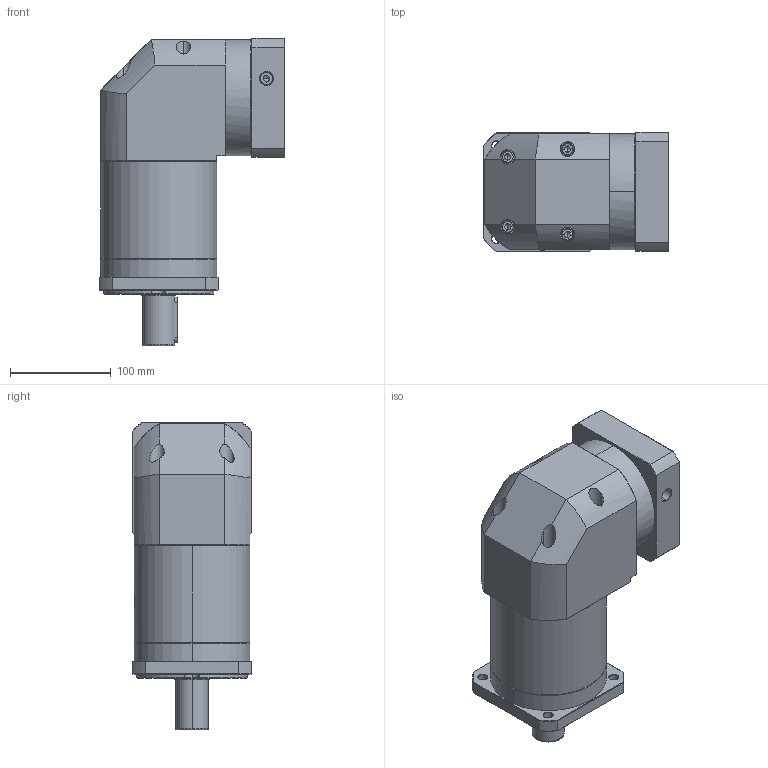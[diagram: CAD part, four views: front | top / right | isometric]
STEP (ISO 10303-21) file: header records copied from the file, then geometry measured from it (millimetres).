
FILE_DESCRIPTION (( 'STEP AP214' ), '1' );
FILE_NAME ('ZFR120A-D32-L3-P2-19-95-115-M6.step', '2023-08-27T08:10:41', ( '' ), ( '' ), 'SwSTEP 2.0', 'SolidWorks 2016', '' );
FILE_SCHEMA (( 'AUTOMOTIVE_DESIGN' ));
Length unit declared in the file: millimetre
Products named in the file (1): ZFR120A-D32-L3-P2-19-95-115-M6
Bounding box: 183.9 x 118 x 305 mm (x, y, z)
Volume: 3407485.7 mm3; surface area: 257148.3 mm2
Topology: 6 solids, 6 shells, 2253 faces, 5944 edges, 3795 vertices
Faces by surface type: plane 1060, bspline 428, cylinder 419, cone 338, torus 8
Entity records: 124797 total; most frequent: CARTESIAN_POINT 49785, ORIENTED_EDGE 11828, DIRECTION 8584, EDGE_CURVE 5914, VERTEX_POINT 3795, VECTOR 3140, LINE 3140, AXIS2_PLACEMENT_3D 2722
